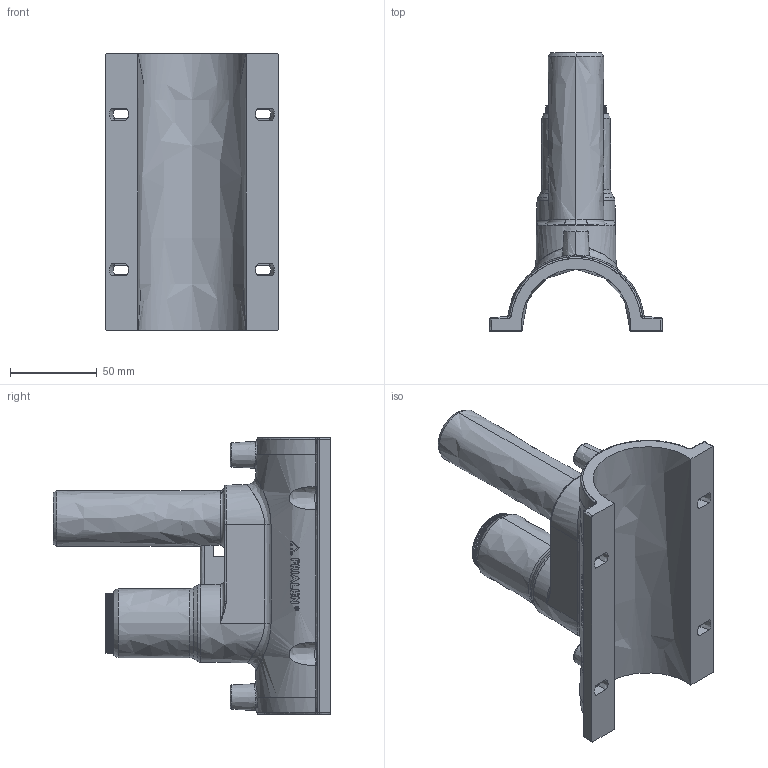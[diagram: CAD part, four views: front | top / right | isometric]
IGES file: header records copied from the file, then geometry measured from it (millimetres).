
Start section:  PTC IGES file: dap_d063_32_01.igs
Global section: file name: dap_d063_32_01.igs; native system: Pro/ENGINEER by Parametric Technology Corporation; preprocessor: 2011490; author: mtunjic; organization: Unknown; date: 20130909.083611; units: millimetre
Bounding box: 100 x 160.5 x 160 mm (x, y, z)
Surface area: 82769.9 mm2 (no closed solid volume)
Topology: 0 solids, 0 shells, 794 faces, 4532 edges, 4532 vertices
Faces by surface type: bspline 794
